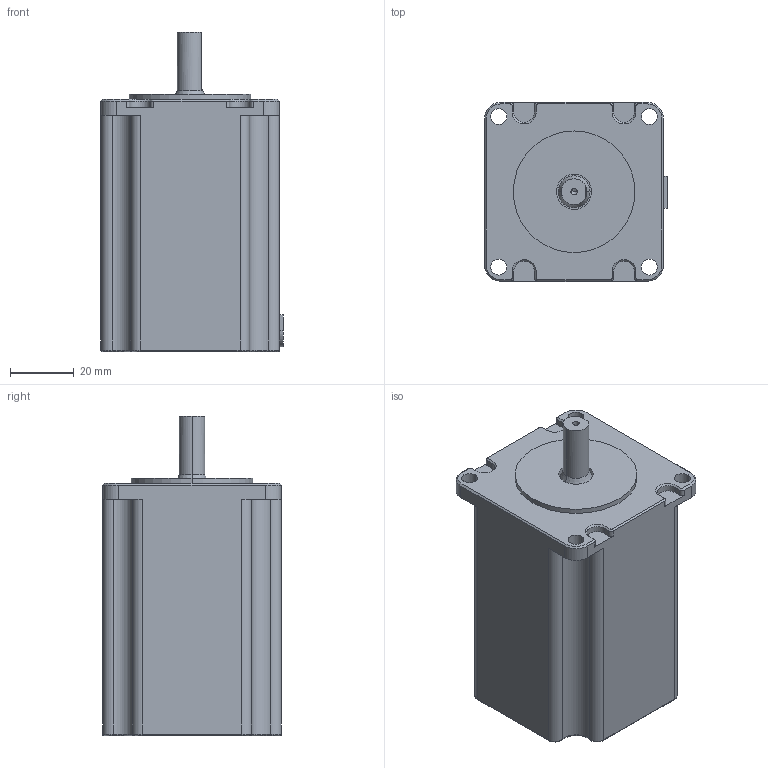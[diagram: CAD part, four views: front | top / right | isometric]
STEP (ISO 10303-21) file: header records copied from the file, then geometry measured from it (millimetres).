
FILE_DESCRIPTION((''),'2;1');
FILE_NAME('QL368A','2022-07-02T18:14:38',('qingl'),(''),'CREO PARAMETRIC BY PTC INC, 2019224','CREO PARAMETRIC BY PTC INC, 2019224','');
FILE_SCHEMA(('CONFIG_CONTROL_DESIGN'));
Length unit declared in the file: millimetre
Products named in the file (1): QL368A
Bounding box: 57.2 x 56 x 100 mm (x, y, z)
Volume: 223074.2 mm3; surface area: 23962.4 mm2
Topology: 1 solids, 1 shells, 260 faces, 712 edges, 463 vertices
Faces by surface type: cylinder 163, plane 57, cone 20, torus 12, bspline 8
Entity records: 11780 total; most frequent: CARTESIAN_POINT 5399, ORIENTED_EDGE 1420, DIRECTION 1204, EDGE_CURVE 710, VERTEX_POINT 463, AXIS2_PLACEMENT_3D 454, VECTOR 296, LINE 296
